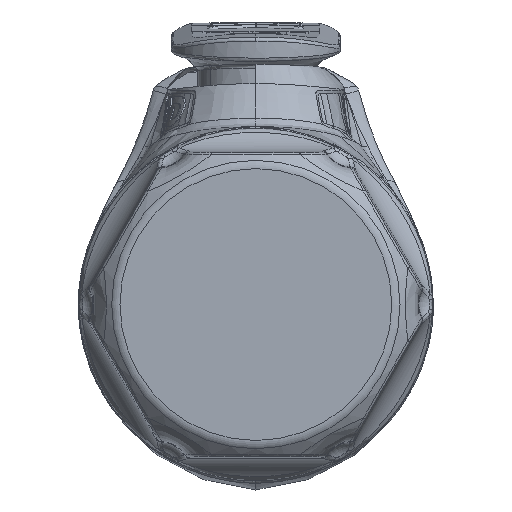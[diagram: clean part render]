
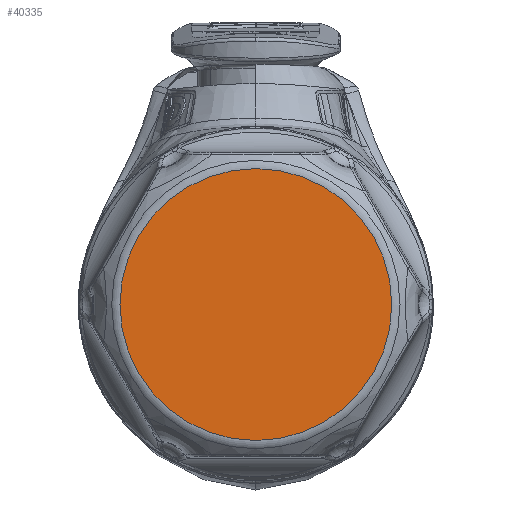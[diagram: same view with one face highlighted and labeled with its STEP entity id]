
A CAD part, front view. The second image highlights one B-rep face of the part: STEP entity #40335.
In plain terms, the highlighted planar face has unit normal (0, -1, 0).
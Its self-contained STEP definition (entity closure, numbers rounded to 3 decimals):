
#7338 = CARTESIAN_POINT ( 'NONE',  ( 0., -58.7, 0. ) ) ;
#8848 = CARTESIAN_POINT ( 'NONE',  ( 11.016, -58.7, 0. ) ) ;
#14365 = DIRECTION ( 'NONE',  ( 0., -1., 0. ) ) ;
#27200 = CIRCLE ( 'NONE', #49605, 11.016 ) ;
#28340 = CARTESIAN_POINT ( 'NONE',  ( 0., -58.7, 0. ) ) ;
#38485 = FACE_OUTER_BOUND ( 'NONE', #81595, .T. ) ;
#40335 = ADVANCED_FACE ( 'NONE', ( #38485 ), #75285, .T. ) ;
#41563 = AXIS2_PLACEMENT_3D ( 'NONE', #28340, #61681, #67395 ) ;
#49605 = AXIS2_PLACEMENT_3D ( 'NONE', #7338, #14365, #72706 ) ;
#56463 = ORIENTED_EDGE ( 'NONE', *, *, #58875, .T. ) ;
#58875 = EDGE_CURVE ( 'NONE', #62356, #62356, #27200, .T. ) ;
#61681 = DIRECTION ( 'NONE',  ( 0., -1., 0. ) ) ;
#62356 = VERTEX_POINT ( 'NONE', #8848 ) ;
#67395 = DIRECTION ( 'NONE',  ( 0., 0., -1. ) ) ;
#72706 = DIRECTION ( 'NONE',  ( 1., 0., 0. ) ) ;
#75285 = PLANE ( 'NONE',  #41563 ) ;
#81595 = EDGE_LOOP ( 'NONE', ( #56463 ) ) ;
